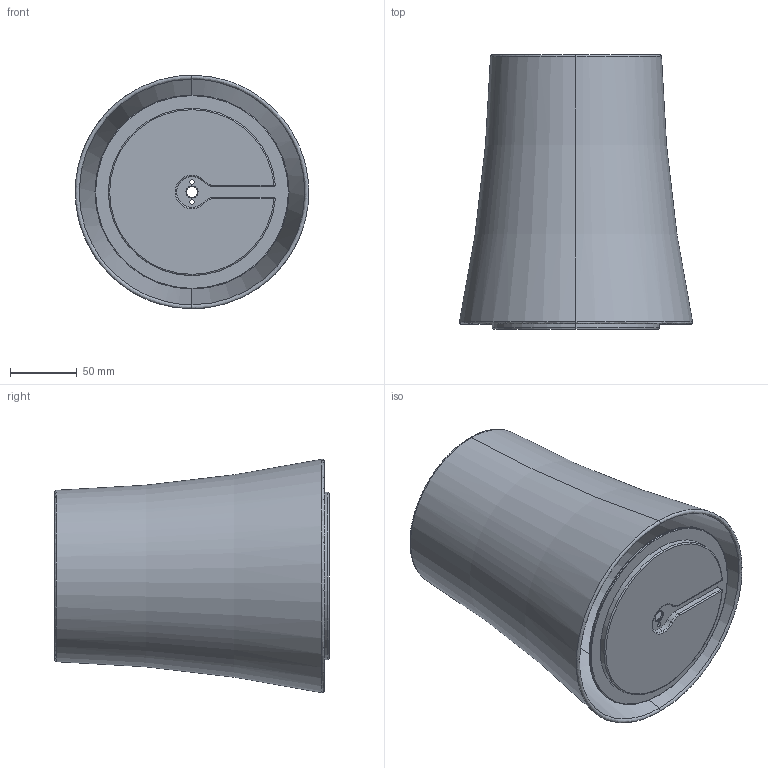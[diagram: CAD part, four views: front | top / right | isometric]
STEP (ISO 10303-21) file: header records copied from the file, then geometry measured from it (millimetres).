
FILE_DESCRIPTION (( 'STEP AP214' ), '1' );
FILE_NAME ('221_ZERO-PICCOLA_T_PL_3D.STEP', '2021-05-03T09:47:13', ( '' ), ( '' ), 'SwSTEP 2.0', 'SolidWorks 2021', '' );
FILE_SCHEMA (( 'AUTOMOTIVE_DESIGN' ));
Length unit declared in the file: millimetre
Products named in the file (1): 221_ZERO-PICCOLA_T_PL_3D
Bounding box: 174.25 x 205.2 x 174.41 mm (x, y, z)
Volume: 373343.1 mm3; surface area: 249753.9 mm2
Topology: 3 solids, 3 shells, 64 faces, 157 edges, 94 vertices
Faces by surface type: torus 20, cylinder 20, cone 12, plane 6, bspline 4, sphere 2
Entity records: 4244 total; most frequent: CARTESIAN_POINT 1993, DIRECTION 336, ORIENTED_EDGE 304, EDGE_CURVE 152, AXIS2_PLACEMENT_3D 149, VERTEX_POINT 92, CIRCLE 88, EDGE_LOOP 70
